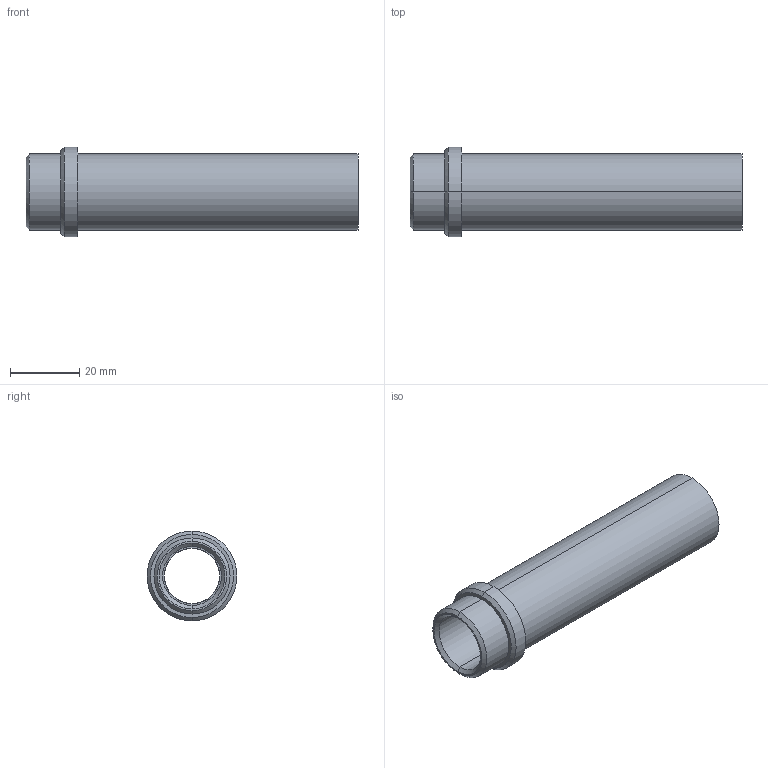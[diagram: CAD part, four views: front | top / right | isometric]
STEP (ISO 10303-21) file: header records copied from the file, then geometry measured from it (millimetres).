
FILE_DESCRIPTION(('CATIA V5 STEP Exchange'),'2;1');
FILE_NAME('C:\Users\Utente\Desktop\IO LAVORO\3D X SITO CF\X SITO\PLASTICA\358\358-16x96.stp','2021-04-08T13:14:05+00:00',('none'),('none'),'CATIA Version 5 Release 20 GA (IN-10)','CATIA V5 STEP AP203','none');
FILE_SCHEMA(('CONFIG_CONTROL_DESIGN'));
Length unit declared in the file: millimetre
Products named in the file (1): 358-16X96
Bounding box: 96 x 26 x 26 mm (x, y, z)
Volume: 16139.4 mm3; surface area: 12221.9 mm2
Topology: 1 solids, 1 shells, 23 faces, 74 edges, 56 vertices
Faces by surface type: cylinder 10, cone 6, plane 5, torus 2
Entity records: 1066 total; most frequent: CARTESIAN_POINT 378, ORIENTED_EDGE 148, DIRECTION 104, EDGE_CURVE 74, AXIS2_PLACEMENT_3D 66, VERTEX_POINT 56, CIRCLE 42, EDGE_LOOP 28
